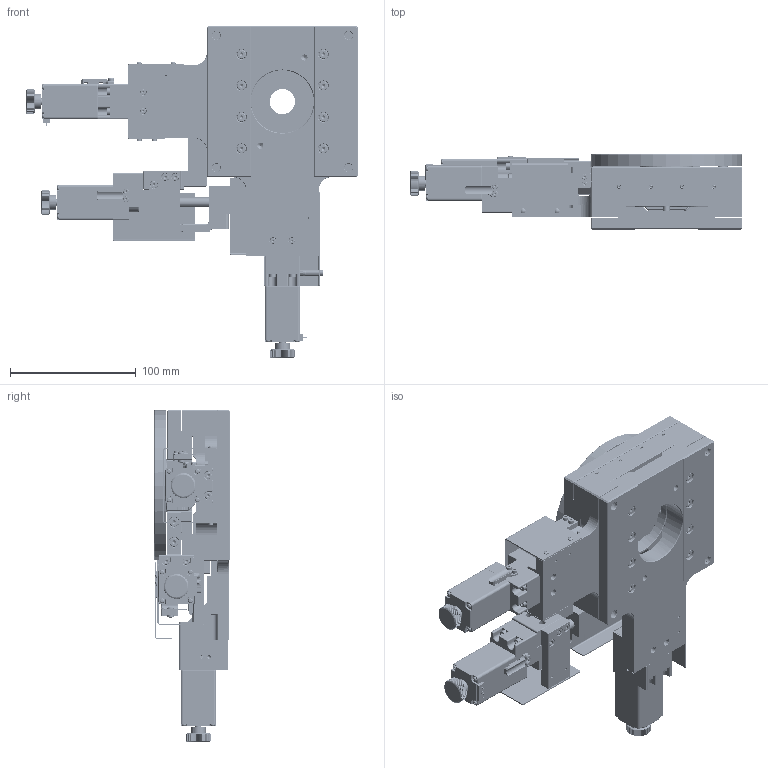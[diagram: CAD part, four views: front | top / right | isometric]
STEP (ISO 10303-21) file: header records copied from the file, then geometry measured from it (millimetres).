
FILE_DESCRIPTION (( 'STEP AP214' ), '1' );
FILE_NAME ('TXYRA120-L1-M28.STEP', '2025-01-03T07:58:06', ( '' ), ( '' ), 'SwSTEP 2.0', 'SolidWorks 2020', '' );
FILE_SCHEMA (( 'AUTOMOTIVE_DESIGN' ));
Length unit declared in the file: millimetre
Products named in the file (1): TXYRA120-L1-M28
Bounding box: 263.5 x 60 x 263.5 mm (x, y, z)
Volume: 1136582.4 mm3; surface area: 291274.8 mm2
Topology: 7 solids, 124 shells, 6908 faces, 17368 edges, 10728 vertices
Faces by surface type: plane 3478, cylinder 1614, cone 1067, torus 392, bspline 325, sphere 32
Entity records: 289819 total; most frequent: CARTESIAN_POINT 51675, ORIENTED_EDGE 34188, DIRECTION 33370, EDGE_CURVE 17094, AXIS2_PLACEMENT_3D 12322, VERTEX_POINT 10728, VECTOR 8726, LINE 8726
